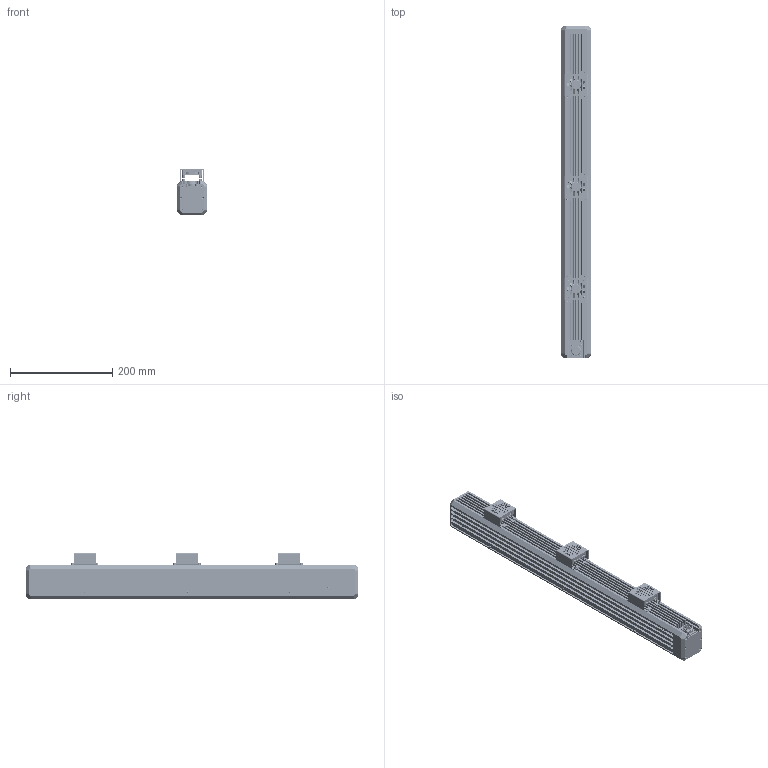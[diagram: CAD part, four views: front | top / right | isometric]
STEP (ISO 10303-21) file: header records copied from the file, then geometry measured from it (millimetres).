
FILE_DESCRIPTION((''),'2;1');
FILE_NAME('MV-LTDS-H-600-W_ASM_1_ASM','2025-06-03T15:12:57',('huguozhe'),(''),'CREO PARAMETRIC BY PTC INC, 2020044','CREO PARAMETRIC BY PTC INC, 2020044','');
FILE_SCHEMA(('AUTOMOTIVE_DESIGN { 1 0 10303 214 1 1 1 1 }'));
Products named in the file (27): DE-15-000626_1; DE-15-000625_ASM_1_ASM; DE-15-000628_1; DE-15-000627_ASM_1_ASM; SC-HSCM3X6B-GB70_1_1; DE-14-015561_1; DE-14-016112_ASM_1_ASM; DE-14-015560_1_1_1; DE-14-016113_ASM_1_1_ASM_1_ASM; DE-14-016113_ASM_ASM_1_ASM; 19M-H_2_1_1_1; 19M-8H-8P_1_1; 19M-8H_ASM_1_ASM_1_ASM; 19M-8H_ASM_ASM_1_ASM; DE-14-016113-19M-8H_ASM; DE-12-001662_1; SC-AM3X10NL-BNI-SCM435-GB70_1_1; SC-HSCM3X8-SUS316_1; DE-11-019911_1; 8002-CLS-M3-1_1; DE-11-019911_ASM_1_ASM; 101800527_01_1; 101800527_02_1; 101800527_MGA4012HB-O10_ASM_1_ASM; SC-ASFM3X14NL-BNI-SUS316L_1; NUT-M4-GB6170_1; MV-LTDS-H-600-W_ASM_1_ASM
Assembly tree (79 placements, depth 5):
  MV-LTDS-H-600-W_ASM_1_ASM
    DE-15-000625_ASM_1_ASM
      DE-15-000626_1
    DE-15-000627_ASM_1_ASM  x2
      DE-15-000628_1
    SC-HSCM3X6B-GB70_1_1  x6
    DE-14-016112_ASM_1_ASM
      DE-14-015561_1
    DE-14-016113-19M-8H_ASM
      DE-14-016113_ASM_ASM_1_ASM
        DE-14-016113_ASM_1_1_ASM_1_ASM
          DE-14-015560_1_1_1
      19M-8H_ASM_ASM_1_ASM
        19M-8H_ASM_1_ASM_1_ASM
          19M-H_2_1_1_1
          19M-8H-8P_1_1
    DE-12-001662_1
    SC-AM3X10NL-BNI-SCM435-GB70_1_1  x20
    SC-HSCM3X8-SUS316_1  x4
    DE-11-019911_ASM_1_ASM  x3
      DE-11-019911_1
      8002-CLS-M3-1_1
    101800527_MGA4012HB-O10_ASM_1_ASM  x3
      101800527_01_1
      101800527_02_1
    SC-ASFM3X14NL-BNI-SUS316L_1  x12
    NUT-M4-GB6170_1  x8
Bounding box: 58 x 650 x 90.6 mm (x, y, z)
Volume: 1994341.6 mm3; surface area: 555449.2 mm2
Topology: 79 solids, 217 shells, 4350 faces, 11634 edges, 7506 vertices
Faces by surface type: plane 1994, cylinder 1508, cone 596, torus 202, bspline 34, sphere 16
Entity records: 77483 total; most frequent: CARTESIAN_POINT 20538, DIRECTION 10539, ORIENTED_EDGE 9564, EDGE_CURVE 4904, AXIS2_PLACEMENT_3D 3994, VERTEX_POINT 3273, VECTOR 2551, LINE 2551
